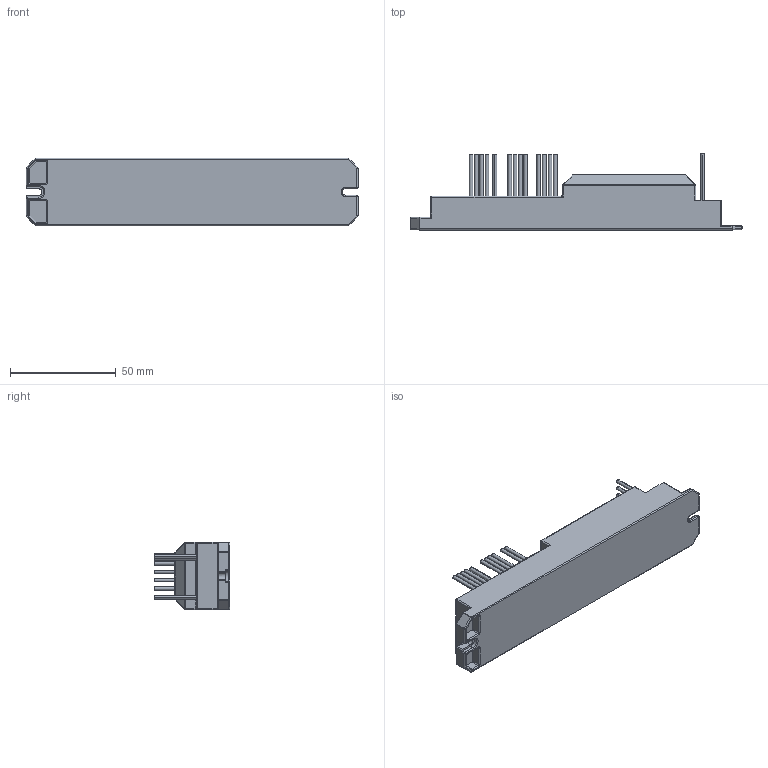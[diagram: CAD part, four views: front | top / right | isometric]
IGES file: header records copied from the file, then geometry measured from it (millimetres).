
Start section:  PTC IGES file: cf16_asm_asm.igs
Global section: file name: cf16_asm_asm.igs; native system: Pro/ENGINEER by Parametric Technology Corporation; preprocessor: 2008090; author: USER; organization: Unknown; date: 20200819.083500; units: millimetre
Bounding box: 156.8 x 35.85 x 32 mm (x, y, z)
Surface area: 44319.4 mm2 (no closed solid volume)
Topology: 0 solids, 0 shells, 1381 faces, 8294 edges, 8262 vertices
Faces by surface type: bspline 1029, revolution 324, extrusion 28
